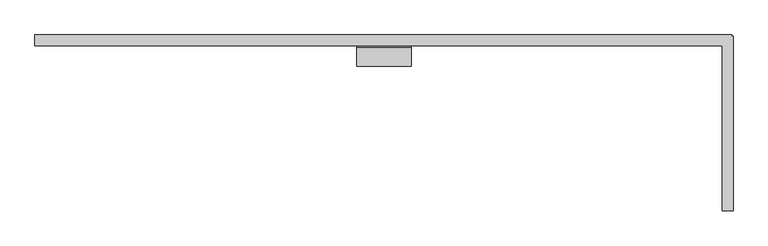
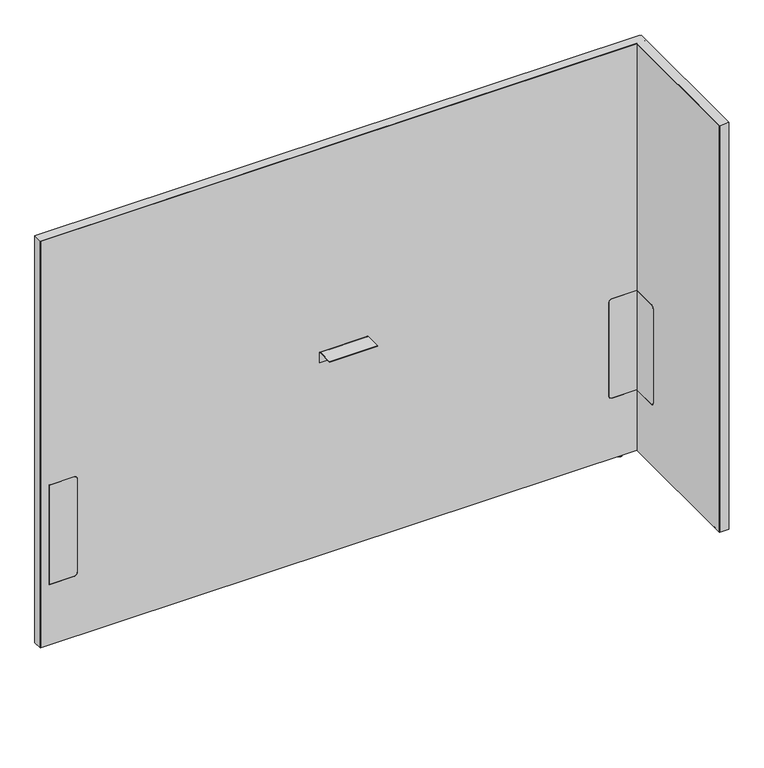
"""IFC4 building model written with IfcOpenShell, lengths in millimetres: furniture geometry, Steelcase - Answer Solution - Boundary Screen - L Return - Single Sided : 54H x 75W."""

from ifc_helpers import new_model, si_unit, point, frame, frame_2d, origin, place, context, project, spatial, polyline, circle_curve, ellipse_curve, trimmed, segment, composite_curve, outline, extrude, faceted_brep, source, transform, mapped, element, save
from ifc_brep_helpers import plane_surface, cylinder_surface, revolved_surface, advanced_brep


def furniture_f833baa1(model_context):
    return source(origin(), model_context, "Body", "SolidModel", [
        extrude(outline(composite_curve([segment(polyline([(-109.3501471, 549.6162029), (-29.0550397, 549.6162029), (-29.0550397, 213.7762137), (-109.3501471, 213.7762137)]), True, "CONTINUOUS"), segment(trimmed(circle_curve(frame_2d((-109.3501471, 223.9362137)), 10.16), [point((-109.3501471, 213.7762137))], [point((-119.5101471, 223.9362137))], False, "CARTESIAN"), True, "CONTINUOUS"), segment(polyline([(-119.5101471, 223.9362137), (-119.5101471, 539.4562029)]), True, "CONTINUOUS"), segment(trimmed(circle_curve(frame_2d((-109.3501471, 539.4562029)), 10.16), [point((-119.5101471, 539.4562029))], [point((-109.3501471, 549.6162029))], False, "CARTESIAN"), True, "CONTINUOUS")], self_intersect=False)), frame((2134.8191891, 0.0, 0.0), z_axis=(1.0, 0.0, 0.0), x_axis=(0.0, 1.0, 0.0)), (0.0, 0.0, 1.0), 0.6401544),
        advanced_brep(
        [(2149.6672074, -448.0136072, 0.0), (2156.6216144, -448.0136072, 0.0), (2142.7128003, -448.0136072, 0.0), (2158.0762685, -448.0136072, 1.2700001), (2141.2581463, -448.0136072, 1.2700001), (2158.0762685, -448.0136072, 2.9673238), (2141.2581463, -448.0136072, 2.9673238), (2159.0427877, -448.0136072, 2.9673238), (2140.291627, -448.0136072, 2.9673238), (2159.0427877, -448.0136072, 9.9059849), (2140.291627, -448.0136072, 9.9059849), (2149.6672074, -448.0136072, 9.9059849)],
        [
            (0, 1),
            (1, 2, circle_curve(frame((2149.6672074, -448.0136072, 0.0), z_axis=(0.0, 0.0, -1.0), x_axis=(1.0, 0.0, 0.0)), 6.9544071)),
            (2, 0),
            (2, 1, circle_curve(frame((2149.6672074, -448.0136072, 0.0), z_axis=(0.0, 0.0, -1.0), x_axis=(1.0, 0.0, 0.0)), 6.9544071)),
            (1, 3, circle_curve(frame((2156.7945484, -448.0136072, 1.2700001), z_axis=(0.0, -1.0, 0.0), x_axis=(0.0, 0.0, 1.0)), 1.2817201)),
            (3, 4, circle_curve(frame((2149.6672074, -448.0136072, 1.2700001), z_axis=(0.0, 0.0, -1.0), x_axis=(1.0, 0.0, 0.0)), 8.4090611)),
            (4, 2, circle_curve(frame((2142.5398663, -448.0136072, 1.2700001), z_axis=(0.0, -1.0, 0.0), x_axis=(0.0, 0.0, 1.0)), 1.2817201)),
            (4, 3, circle_curve(frame((2149.6672074, -448.0136072, 1.2700001), z_axis=(0.0, 0.0, -1.0), x_axis=(1.0, 0.0, 0.0)), 8.4090611)),
            (3, 5),
            (5, 6, circle_curve(frame((2149.6672074, -448.0136072, 2.9673238), z_axis=(0.0, 0.0, -1.0), x_axis=(1.0, 0.0, 0.0)), 8.4090611)),
            (6, 4),
            (6, 5, circle_curve(frame((2149.6672074, -448.0136072, 2.9673238), z_axis=(0.0, 0.0, -1.0), x_axis=(1.0, 0.0, 0.0)), 8.4090611)),
            (5, 7),
            (7, 8, circle_curve(frame((2149.6672074, -448.0136072, 2.9673238), z_axis=(0.0, 0.0, -1.0), x_axis=(1.0, 0.0, 0.0)), 9.3755804)),
            (8, 6),
            (8, 7, circle_curve(frame((2149.6672074, -448.0136072, 2.9673238), z_axis=(0.0, 0.0, -1.0), x_axis=(1.0, 0.0, 0.0)), 9.3755804)),
            (7, 9),
            (9, 10, circle_curve(frame((2149.6672074, -448.0136072, 9.9059849), z_axis=(0.0, 0.0, -1.0), x_axis=(1.0, 0.0, 0.0)), 9.3755804)),
            (10, 8),
            (10, 9, circle_curve(frame((2149.6672074, -448.0136072, 9.9059849), z_axis=(0.0, 0.0, -1.0), x_axis=(1.0, 0.0, 0.0)), 9.3755804)),
            (9, 11),
            (11, 10),
        ],
        [
            plane_surface(frame((2149.6672074, -448.0136072, 0.0), z_axis=(0.0, 0.0, -1.0), x_axis=(1.0, 0.0, 0.0))),
            revolved_surface(trimmed(ellipse_curve(frame((2156.7945484, -448.0136072, 1.2700001), z_axis=(0.0, 1.0, 0.0), x_axis=(0.0, 0.0, 1.0)), 1.2817201, 1.2817201), [point((2158.0762685, -448.0136072, 1.2700001))], [point((2156.6216144, -448.0136072, 0.0))], True, "CARTESIAN"), (2149.6672074, -448.0136072, 9.9059849), (0.0, 0.0, -1.0)),
            cylinder_surface(frame((2149.6672074, -448.0136072, 9.9059849), z_axis=(0.0, 0.0, -1.0), x_axis=(1.0, 0.0, 0.0)), 8.4090611),
            plane_surface(frame((2149.6672074, -448.0136072, 2.9673238), z_axis=(0.0, 0.0, -1.0), x_axis=(1.0, 0.0, 0.0))),
            cylinder_surface(frame((2149.6672074, -448.0136072, 9.9059849), z_axis=(0.0, 0.0, -1.0), x_axis=(1.0, 0.0, 0.0)), 9.3755804),
            plane_surface(frame((2149.6672074, -448.0136072, 9.9059849), z_axis=(0.0, 0.0, 1.0), x_axis=(1.0, 0.0, 0.0))),
        ],
        [
            (0, [[1, 2, 3]]),
            (0, [[-3, 4, -1]]),
            (1, [[-2, 5, 6, 7]]),
            (1, [[-4, -7, 8, -5]]),
            (2, [[-6, 9, 10, 11]]),
            (2, [[-8, -11, 12, -9]]),
            (3, [[-10, 13, 14, 15]]),
            (3, [[-12, -15, 16, -13]]),
            (4, [[-14, 17, 18, 19]]),
            (4, [[-16, -19, 20, -17]]),
            (5, [[-18, 21, 22]]),
            (5, [[-20, -22, -21]]),
        ],
    ),
        faceted_brep([(2161.2531179, 0.0, 1382.522), (2161.2531179, 0.0, 9.9059849), (2160.2621491, 0.0, 9.9059849), (2160.2621491, 0.0, 1381.542118), (230.8097779, 0.0, 1381.542118), (230.8097779, 0.0, 9.9059849), (229.8191891, 0.0, 9.9059849), (229.8191891, 0.0, 1382.522), (229.8191891, -29.6898332, 1382.522), (229.8191891, -29.6898332, 9.9059849), (230.8097779, -29.6898332, 9.9059849), (230.8097779, -29.6898332, 1381.542118), (2134.8191891, -29.6898332, 1381.542118), (2134.8191891, -29.6898332, 1382.522), (2160.2621491, -29.6898332, 1381.542118), (2160.2621491, -29.6898332, 9.9059849), (2161.2531179, -29.6898332, 9.9059849), (2161.2531179, -29.6898332, 1381.542118), (2161.2531179, -3.2625916, 1382.522), (2161.2531179, -3.2625916, 9.9059849), (2161.2531179, -4.252647, 9.9059849), (2161.2531179, -4.252647, 1381.542118), (2164.5152256, -3.2625916, 9.9059849), (2164.5152256, -4.252647, 9.9059849), (2160.2621491, -4.252647, 9.9059849), (2134.8191891, -4.252647, 9.9059849), (2134.8191891, -3.2625916, 9.9059849), (2160.2621491, -3.2625916, 9.9059849), (2134.8191891, -486.8898332, 1382.522), (2164.5152256, -486.8898332, 1382.522), (2164.5152256, -3.2625916, 1382.522), (2160.2621491, -3.2625916, 1381.542118), (2160.2621491, -4.252647, 1381.542118), (2134.8191891, -3.2625916, 1381.542118), (2134.8191891, -4.252647, 1381.542118), (2164.5152256, -4.252647, 1381.542118), (2164.5152256, -485.899196, 1381.542118), (2134.8191891, -485.899196, 1381.542118), (2134.8191891, -485.899196, 9.9059849), (2134.8191891, -486.8898332, 9.9059849), (2164.5152256, -486.8898332, 9.9059849), (2164.5152256, -485.899196, 9.9059849)], [[[0, 1, 2, 3, 4, 5, 6, 7]], [[8, 9, 10, 11, 12, 13]], [[14, 15, 16, 17]], [[1, 0, 18, 19]], [[17, 16, 20, 21]], [[2, 1, 19, 22, 23, 20, 16, 15, 24, 25, 26, 27]], [[7, 6, 9, 8]], [[0, 7, 8, 13, 28, 29, 30, 18]], [[3, 2, 27, 31]], [[15, 14, 32, 24]], [[4, 3, 31, 33, 34, 32, 14, 17, 21, 35, 36, 37, 12, 11]], [[5, 4, 11, 10]], [[6, 5, 10, 9]], [[26, 25, 34, 33]], [[37, 38, 39, 28, 13, 12]], [[29, 40, 41, 36, 35, 23, 22, 30]], [[27, 26, 33, 31]], [[30, 22, 19, 18]], [[34, 25, 24, 32]], [[23, 35, 21, 20]], [[38, 37, 36, 41]], [[39, 38, 41, 40]], [[28, 39, 40, 29]]]),
        extrude(outline(composite_curve([segment(polyline([(-86.8398151, 696.4680019), (-86.8398151, 698.5), (-34.9450855, 698.5)]), True, "CONTINUOUS"), segment(trimmed(circle_curve(frame_2d((-34.9450855, 693.2447477)), 5.2552523), [point((-34.9450855, 698.5))], [point((-29.6898332, 693.2447477))], False, "CARTESIAN"), True, "CONTINUOUS"), segment(polyline([(-29.6898332, 693.2447477), (-29.6898332, 660.4), (-31.7218162, 660.4), (-31.7218162, 693.0058743)]), True, "CONTINUOUS"), segment(trimmed(circle_curve(frame_2d((-35.1839438, 693.0058743)), 3.4621276), [point((-31.7218162, 693.0058743))], [point((-35.1839438, 696.4680019))], True, "CARTESIAN"), True, "CONTINUOUS"), segment(polyline([(-35.1839438, 696.4680019), (-86.8398151, 696.4680019)]), True, "CONTINUOUS")], self_intersect=False)), frame((1120.9685899, 0.0, 0.0), z_axis=(1.0, 0.0, 0.0), x_axis=(0.0, 1.0, 0.0)), (0.0, 0.0, 1.0), 152.4000969),
        advanced_brep(
        [(2087.3246853, -23.7588726, 9.9059849), (2087.3246853, -5.9309607, 9.9059849), (2087.3246853, -14.8449166, 9.9059849), (2087.3246853, -23.7588726, 2.9673238), (2087.3246853, -5.9309607, 2.9673238), (2087.3246853, -22.7915354, 2.9673238), (2087.3246853, -6.8982978, 2.9673238), (2087.3246853, -22.7915354, 1.6569081), (2087.3246853, -6.8982978, 1.6569081), (2087.3246853, -21.1346274, 0.0), (2087.3246853, -8.5552059, 0.0), (2087.3246853, -14.8449166, 0.0)],
        [
            (0, 1, circle_curve(frame((2087.3246853, -14.8449166, 9.9059849), z_axis=(0.0, 0.0, 1.0), x_axis=(0.0, 1.0, 0.0)), 8.913956)),
            (1, 2),
            (2, 0),
            (1, 0, circle_curve(frame((2087.3246853, -14.8449166, 9.9059849), z_axis=(0.0, 0.0, 1.0), x_axis=(0.0, 1.0, 0.0)), 8.913956)),
            (3, 4, circle_curve(frame((2087.3246853, -14.8449166, 2.9673238), z_axis=(0.0, 0.0, 1.0), x_axis=(0.0, 1.0, 0.0)), 8.913956)),
            (4, 1),
            (0, 3),
            (4, 3, circle_curve(frame((2087.3246853, -14.8449166, 2.9673238), z_axis=(0.0, 0.0, 1.0), x_axis=(0.0, 1.0, 0.0)), 8.913956)),
            (5, 6, circle_curve(frame((2087.3246853, -14.8449166, 2.9673238), z_axis=(0.0, 0.0, 1.0), x_axis=(0.0, 1.0, 0.0)), 7.9466188)),
            (6, 4),
            (3, 5),
            (6, 5, circle_curve(frame((2087.3246853, -14.8449166, 2.9673238), z_axis=(0.0, 0.0, 1.0), x_axis=(0.0, 1.0, 0.0)), 7.9466188)),
            (7, 8, circle_curve(frame((2087.3246853, -14.8449166, 1.6569081), z_axis=(0.0, 0.0, 1.0), x_axis=(0.0, 1.0, 0.0)), 7.9466188)),
            (8, 6),
            (5, 7),
            (8, 7, circle_curve(frame((2087.3246853, -14.8449166, 1.6569081), z_axis=(0.0, 0.0, 1.0), x_axis=(0.0, 1.0, 0.0)), 7.9466188)),
            (9, 10, circle_curve(frame((2087.3246853, -14.8449166, 0.0), z_axis=(0.0, 0.0, 1.0), x_axis=(0.0, 1.0, 0.0)), 6.2897107)),
            (10, 8, circle_curve(frame((2087.3246853, -8.5552059, 1.6569081), z_axis=(1.0, 0.0, 0.0), x_axis=(0.0, 1.0, 0.0)), 1.6569081)),
            (7, 9, circle_curve(frame((2087.3246853, -21.1346274, 1.6569081), z_axis=(1.0, 0.0, 0.0), x_axis=(0.0, -1.0, 0.0)), 1.6569081)),
            (10, 9, circle_curve(frame((2087.3246853, -14.8449166, 0.0), z_axis=(0.0, 0.0, 1.0), x_axis=(0.0, 1.0, 0.0)), 6.2897107)),
            (11, 10),
            (9, 11),
        ],
        [
            plane_surface(frame((2087.3246853, -14.8449166, 9.9059849), z_axis=(0.0, 0.0, 1.0), x_axis=(0.0, 1.0, 0.0))),
            cylinder_surface(frame((2087.3246853, -14.8449166, 9.9059849), z_axis=(0.0, 0.0, -1.0), x_axis=(0.0, 1.0, 0.0)), 8.913956),
            plane_surface(frame((2087.3246853, -14.8449166, 2.9673238), z_axis=(0.0, 0.0, -1.0), x_axis=(0.0, 1.0, 0.0))),
            cylinder_surface(frame((2087.3246853, -14.8449166, 9.9059849), z_axis=(0.0, 0.0, -1.0), x_axis=(0.0, 1.0, 0.0)), 7.9466188),
            revolved_surface(trimmed(ellipse_curve(frame((2087.3246853, -8.5552059, 1.6569081), z_axis=(-1.0, 0.0, 0.0), x_axis=(0.0, 1.0, 0.0)), 1.6569081, 1.6569081), [point((2087.3246853, -6.8982978, 1.6569081))], [point((2087.3246853, -8.5552059, 0.0))], True, "CARTESIAN"), (2087.3246853, -14.8449166, 9.9059849), (0.0, 0.0, -1.0)),
            plane_surface(frame((2087.3246853, -14.8449166, 0.0), z_axis=(0.0, 0.0, -1.0), x_axis=(0.0, 1.0, 0.0))),
        ],
        [
            (0, [[1, 2, 3]]),
            (0, [[4, -3, -2]]),
            (1, [[5, 6, -1, 7]]),
            (1, [[8, -7, -4, -6]]),
            (2, [[9, 10, -5, 11]]),
            (2, [[12, -11, -8, -10]]),
            (3, [[13, 14, -9, 15]]),
            (3, [[16, -15, -12, -14]]),
            (4, [[17, 18, -13, 19]]),
            (4, [[20, -19, -16, -18]]),
            (5, [[21, -17, 22]]),
            (5, [[-22, -20, -21]]),
        ],
    ),
        advanced_brep(
        [(230.8097779, 0.0, 1381.542118), (2160.2621491, 0.0, 1381.542118), (2160.2621491, 0.0, 9.9059849), (230.8097779, 0.0, 9.9059849), (347.9483813, -29.0550397, 539.4562029), (337.7883813, -29.0550397, 549.6162029), (258.1344836, -29.0550397, 549.6162029), (258.1344836, -29.0550397, 213.7762137), (337.7883813, -29.0550397, 213.7762137), (347.9483813, -29.0550397, 223.9362137), (2135.4593435, -29.0550397, 213.7762137), (2135.4593435, -29.0550397, 549.6162029), (2054.9109268, -29.0550397, 549.6162029), (2044.7509268, -29.0550397, 539.4562029), (2044.7509268, -29.0550397, 223.9362137), (2054.9109268, -29.0550397, 213.7762137), (230.8097779, -29.6898332, 1381.542118), (230.8097779, -29.6898332, 9.9059849), (2134.8191891, -29.6898332, 9.9059849), (2134.8191891, -29.6898332, 213.7762137), (2054.9109268, -29.6898332, 213.7762137), (2044.7509268, -29.6898332, 223.9362137), (2044.7509268, -29.6898332, 539.4562029), (2054.9109268, -29.6898332, 549.6162029), (2134.8191891, -29.6898332, 549.6162029), (2134.8191891, -29.6898332, 1381.542118), (337.7883813, -29.6898332, 549.6162029), (347.9483813, -29.6898332, 539.4562029), (347.9483813, -29.6898332, 223.9362137), (337.7883813, -29.6898332, 213.7762137), (258.1344836, -29.6898332, 213.7762137), (258.1344836, -29.6898332, 549.6162029), (2160.2621491, -4.252647, 9.9059849), (2164.5152256, -4.252647, 9.9059849), (2164.5152256, -485.899196, 9.9059849), (2134.8191891, -485.899196, 9.9059849), (2160.2621491, -4.252647, 1381.542118), (2134.8191891, -485.899196, 1381.542118), (2164.5152256, -485.899196, 1381.542118), (2164.5152256, -4.252647, 1381.542118), (2135.4593435, -109.3501471, 549.6162029), (2134.8191891, -109.3501471, 549.6162029), (2135.4593435, -109.3501471, 213.7762137), (2135.4593435, -119.5101471, 223.9362137), (2135.4593435, -119.5101471, 539.4562029), (2134.8191891, -109.3501471, 213.7762137), (2134.8191891, -119.5101471, 539.4562029), (2134.8191891, -119.5101471, 223.9362137)],
        [
            (0, 1),
            (1, 2),
            (2, 3),
            (3, 0),
            (4, 5, circle_curve(frame((337.7883813, -29.0550397, 539.4562029), z_axis=(0.0, -1.0, 0.0), x_axis=(0.0, 0.0, 1.0)), 10.16)),
            (5, 6),
            (6, 7),
            (7, 8),
            (8, 9, circle_curve(frame((337.7883813, -29.0550397, 223.9362137), z_axis=(0.0, -1.0, 0.0), x_axis=(0.0, 0.0, 1.0)), 10.16)),
            (9, 4),
            (10, 11),
            (11, 12),
            (12, 13, circle_curve(frame((2054.9109268, -29.0550397, 539.4562029), z_axis=(0.0, -1.0, 0.0), x_axis=(0.0, 0.0, 1.0)), 10.16)),
            (13, 14),
            (14, 15, circle_curve(frame((2054.9109268, -29.0550397, 223.9362137), z_axis=(0.0, -1.0, 0.0), x_axis=(0.0, 0.0, 1.0)), 10.16)),
            (15, 10),
            (16, 17),
            (17, 18),
            (18, 19),
            (19, 20),
            (20, 21, circle_curve(frame((2054.9109268, -29.6898332, 223.9362137), z_axis=(0.0, 1.0, 0.0), x_axis=(0.0, 0.0, 1.0)), 10.16)),
            (21, 22),
            (22, 23, circle_curve(frame((2054.9109268, -29.6898332, 539.4562029), z_axis=(0.0, 1.0, 0.0), x_axis=(0.0, 0.0, 1.0)), 10.16)),
            (23, 24),
            (24, 25),
            (25, 16),
            (26, 27, circle_curve(frame((337.7883813, -29.6898332, 539.4562029), z_axis=(0.0, 1.0, 0.0), x_axis=(0.0, 0.0, 1.0)), 10.16)),
            (27, 28),
            (28, 29, circle_curve(frame((337.7883813, -29.6898332, 223.9362137), z_axis=(0.0, 1.0, 0.0), x_axis=(0.0, 0.0, 1.0)), 10.16)),
            (29, 30),
            (30, 31),
            (31, 26),
            (16, 0),
            (3, 17),
            (2, 32),
            (32, 33),
            (33, 34),
            (34, 35),
            (35, 18),
            (1, 36),
            (36, 32),
            (25, 37),
            (37, 38),
            (38, 39),
            (39, 36),
            (26, 5),
            (4, 27),
            (9, 28),
            (8, 29),
            (7, 30),
            (6, 31),
            (11, 40),
            (40, 41),
            (41, 24),
            (23, 12),
            (42, 43, circle_curve(frame((2135.4593435, -109.3501471, 223.9362137), z_axis=(-1.0, 0.0, 0.0), x_axis=(0.0, 1.0, 0.0)), 10.16)),
            (43, 44),
            (44, 40, circle_curve(frame((2135.4593435, -109.3501471, 539.4562029), z_axis=(-1.0, 0.0, 0.0), x_axis=(0.0, 1.0, 0.0)), 10.16)),
            (10, 42),
            (15, 20),
            (19, 45),
            (45, 42),
            (14, 21),
            (13, 22),
            (35, 37),
            (41, 46, circle_curve(frame((2134.8191891, -109.3501471, 539.4562029), z_axis=(1.0, 0.0, 0.0), x_axis=(0.0, 1.0, 0.0)), 10.16)),
            (46, 47),
            (47, 45, circle_curve(frame((2134.8191891, -109.3501471, 223.9362137), z_axis=(1.0, 0.0, 0.0), x_axis=(0.0, 1.0, 0.0)), 10.16)),
            (38, 34),
            (33, 39),
            (44, 46),
            (43, 47),
        ],
        [
            plane_surface(frame((347.9483813, 0.0, 549.6162029), z_axis=(0.0, 1.0, 0.0), x_axis=(0.0, 0.0, -1.0))),
            plane_surface(frame((347.9483813, -29.0550397, 549.6162029), z_axis=(0.0, -1.0, 0.0), x_axis=(0.0, 0.0, 1.0))),
            plane_surface(frame((2160.2621491, -29.6898332, 1381.542118), z_axis=(0.0, -1.0, 0.0), x_axis=(-1.0, 0.0, 0.0))),
            plane_surface(frame((230.8097779, 0.0, 9.9059849), z_axis=(-1.0, 0.0, 0.0), x_axis=(0.0, -1.0, 0.0))),
            plane_surface(frame((2160.2621491, 0.0, 9.9059849), z_axis=(0.0, 0.0, -1.0), x_axis=(0.0, -1.0, 0.0))),
            plane_surface(frame((2160.2621491, 0.0, 1381.542118), z_axis=(1.0, 0.0, 0.0), x_axis=(0.0, -1.0, 0.0))),
            plane_surface(frame((230.8097779, 0.0, 1381.542118), z_axis=(0.0, 0.0, 1.0), x_axis=(0.0, -1.0, 0.0))),
            revolved_surface(polyline([(337.7883813, -29.6898332, 549.6162029), (337.7883813, -29.0550397, 549.6162029)]), (337.7883813, -29.6898332, 539.4562029), (0.0, -1.0, 0.0)),
            plane_surface(frame((347.9483813, 0.0, 223.9362137), z_axis=(-1.0, 0.0, 0.0), x_axis=(0.0, -1.0, 0.0))),
            revolved_surface(polyline([(337.7883813, -29.6898332, 234.0962137), (337.7883813, -29.0550397, 234.0962137)]), (337.7883813, -29.6898332, 223.9362137), (0.0, -1.0, 0.0)),
            plane_surface(frame((258.1344836, 0.0, 213.7762137), z_axis=(0.0, 0.0, 1.0), x_axis=(0.0, -1.0, 0.0))),
            plane_surface(frame((258.1344836, 0.0, 549.6162029), z_axis=(1.0, 0.0, 0.0), x_axis=(0.0, -1.0, 0.0))),
            plane_surface(frame((337.7883813, 0.0, 549.6162029), z_axis=(0.0, 0.0, -1.0), x_axis=(0.0, -1.0, 0.0))),
            plane_surface(frame((2135.4593435, 0.0, 549.6162029), z_axis=(0.0, 0.0, -1.0), x_axis=(0.0, -1.0, 0.0))),
            plane_surface(frame((2135.4593435, 0.0, 213.7762137), z_axis=(-1.0, 0.0, 0.0), x_axis=(0.0, -1.0, 0.0))),
            plane_surface(frame((2054.9109268, 0.0, 213.7762137), z_axis=(0.0, 0.0, 1.0), x_axis=(0.0, -1.0, 0.0))),
            revolved_surface(polyline([(2054.9109268, -29.6898332, 234.0962137), (2054.9109268, -29.0550397, 234.0962137)]), (2054.9109268, -29.6898332, 223.9362137), (0.0, -1.0, 0.0)),
            plane_surface(frame((2044.7509268, 0.0, 539.4562029), z_axis=(1.0, 0.0, 0.0), x_axis=(0.0, -1.0, 0.0))),
            revolved_surface(polyline([(2054.9109268, -29.6898332, 549.6162029), (2054.9109268, -29.0550397, 549.6162029)]), (2054.9109268, -29.6898332, 539.4562029), (0.0, -1.0, 0.0)),
            plane_surface(frame((2134.8191891, -485.899196, 1381.542118), z_axis=(-1.0, 0.0, 0.0), x_axis=(0.0, 0.0, 1.0))),
            plane_surface(frame((2164.5152256, -485.899196, 1381.542118), z_axis=(1.0, 0.0, 0.0), x_axis=(0.0, 0.0, -1.0))),
            plane_surface(frame((2164.5152256, -4.252647, 9.9059849), z_axis=(0.0, 1.0, 0.0), x_axis=(-1.0, 0.0, 0.0))),
            plane_surface(frame((2164.5152256, -485.899196, 1381.542118), z_axis=(0.0, -1.0, 0.0), x_axis=(-1.0, 0.0, 0.0))),
            revolved_surface(polyline([(2134.8191890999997, -99.1901471, 539.4562029), (2135.4593434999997, -99.1901471, 539.4562029)]), (-340.6902705, -109.3501471, 539.4562029), (-1.0, 0.0, 0.0)),
            plane_surface(frame((2164.5152256, -119.5101471, 223.9362137), z_axis=(0.0, 1.0, 0.0), x_axis=(-1.0, 0.0, 0.0))),
            revolved_surface(polyline([(2134.8191890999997, -99.1901471, 223.9362137), (2135.4593434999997, -99.1901471, 223.9362137)]), (-340.6902705, -109.3501471, 223.9362137), (-1.0, 0.0, 0.0)),
        ],
        [
            (0, [[1, 2, 3, 4]]),
            (1, [[5, 6, 7, 8, 9, 10]]),
            (1, [[11, 12, 13, 14, 15, 16]]),
            (2, [[17, 18, 19, 20, 21, 22, 23, 24, 25, 26], [27, 28, 29, 30, 31, 32]]),
            (3, [[-17, 33, -4, 34]]),
            (4, [[-3, 35, 36, 37, 38, 39, -18, -34]]),
            (5, [[-2, 40, 41, -35]]),
            (6, [[-1, -33, -26, 42, 43, 44, 45, -40]]),
            (7, [[-27, 46, -5, 47]]),
            (8, [[-28, -47, -10, 48]]),
            (9, [[-29, -48, -9, 49]]),
            (10, [[-30, -49, -8, 50]]),
            (11, [[-31, -50, -7, 51]]),
            (12, [[-32, -51, -6, -46]]),
            (13, [[52, 53, 54, -24, 55, -12]]),
            (14, [[56, 57, 58, -52, -11, 59]]),
            (15, [[-59, -16, 60, -20, 61, 62]]),
            (16, [[-21, -60, -15, 63]]),
            (17, [[-22, -63, -14, 64]]),
            (18, [[-23, -64, -13, -55]]),
            (19, [[65, -42, -25, -54, 66, 67, 68, -61, -19, -39]]),
            (20, [[69, -37, 70, -44]]),
            (21, [[-70, -36, -41, -45]]),
            (22, [[-65, -38, -69, -43]]),
            (23, [[-66, -53, -58, 71]]),
            (24, [[-67, -71, -57, 72]]),
            (25, [[-68, -72, -56, -62]]),
        ],
    ),
        extrude(outline(composite_curve([segment(polyline([(549.6162029, 337.7883813), (549.6162029, 258.1344836), (213.7762137, 258.1344836), (213.7762137, 337.7883813)]), True, "CONTINUOUS"), segment(trimmed(circle_curve(frame_2d((223.9362137, 337.7883813)), 10.16), [point((213.7762137, 337.7883813))], [point((223.9362137, 347.9483813))], False, "CARTESIAN"), True, "CONTINUOUS"), segment(polyline([(223.9362137, 347.9483813), (539.4562029, 347.9483813)]), True, "CONTINUOUS"), segment(trimmed(circle_curve(frame_2d((539.4562029, 337.7883813)), 10.16), [point((539.4562029, 347.9483813))], [point((549.6162029, 337.7883813))], False, "CARTESIAN"), True, "CONTINUOUS")], self_intersect=False)), frame((0.0, -29.6898332, 0.0), z_axis=(0.0, 1.0, 0.0), x_axis=(0.0, 0.0, 1.0)), (0.0, 0.0, 1.0), 0.6347935),
        extrude(outline(composite_curve([segment(trimmed(circle_curve(frame_2d((539.4562029, 2054.9109268)), 10.16), [point((549.6162029, 2054.9109268))], [point((539.4562029, 2044.7509268))], False, "CARTESIAN"), True, "CONTINUOUS"), segment(polyline([(539.4562029, 2044.7509268), (223.9362137, 2044.7509268)]), True, "CONTINUOUS"), segment(trimmed(circle_curve(frame_2d((223.9362137, 2054.9109268)), 10.16), [point((223.9362137, 2044.7509268))], [point((213.7762137, 2054.9109268))], False, "CARTESIAN"), True, "CONTINUOUS"), segment(polyline([(213.7762137, 2054.9109268), (213.7762137, 2134.8191891), (549.6162029, 2134.8191891), (549.6162029, 2054.9109268)]), True, "CONTINUOUS")], self_intersect=False)), frame((0.0, -29.6898332, 0.0), z_axis=(0.0, 1.0, 0.0), x_axis=(0.0, 0.0, 1.0)), (0.0, 0.0, 1.0), 0.6347935),
    ])


if __name__ == "__main__":
    model = new_model("IFC4")
    model_context = context("Model", 3, world=origin())
    ifc_project = project(units=[si_unit("LENGTHUNIT", "METRE", prefix="MILLI")], contexts=[model_context])
    site = spatial("IfcSite", under=ifc_project)
    building = spatial("IfcBuilding", under=site)
    placement = place(None, origin())
    furniture_shape = furniture_f833baa1(model_context)
    element("IfcFurniture", 1, ObjectType="Steelcase - Answer Solution - Boundary Screen - L Return - Single Sided : 54H x 75W", at=placement, inside=building, context=model_context, shape_type="MappedRepresentation", body=[
        mapped(furniture_shape, transform((0.0, 0.0, 0.0), x_axis=(1.0, 0.0, 0.0), y_axis=(0.0, 1.0, 0.0), z_axis=(0.0, 0.0, 1.0))),
    ])
    save(model, "model.ifc")
